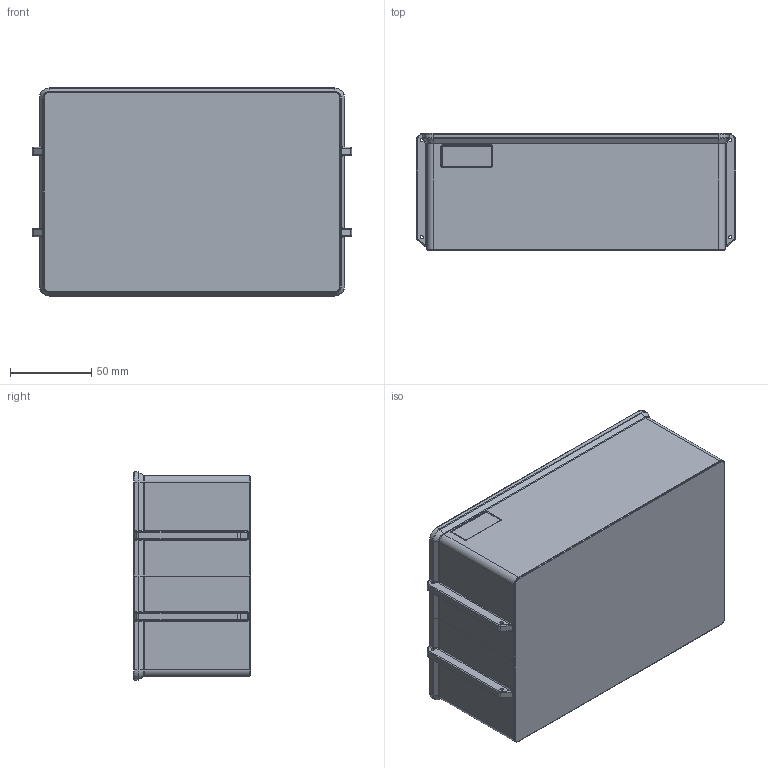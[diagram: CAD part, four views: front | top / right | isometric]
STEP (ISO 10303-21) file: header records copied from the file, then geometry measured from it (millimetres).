
FILE_DESCRIPTION (( 'STEP AP214' ), '1' );
FILE_NAME ('Tiered Storage Box 70.STEP', '2024-06-05T01:27:35', ( '' ), ( '' ), 'SwSTEP 2.0', 'SolidWorks 2022', '' );
FILE_SCHEMA (( 'AUTOMOTIVE_DESIGN' ));
Length unit declared in the file: millimetre
Products named in the file (1): Tiered Storage Box 70
Bounding box: 197 x 72 x 128.4 mm (x, y, z)
Volume: 237584.3 mm3; surface area: 250974 mm2
Topology: 1 solids, 1 shells, 761 faces, 1754 edges, 898 vertices
Faces by surface type: cylinder 338, plane 159, torus 102, bspline 90, sphere 60, cone 12
Entity records: 22591 total; most frequent: CARTESIAN_POINT 6376, DIRECTION 3585, ORIENTED_EDGE 3320, EDGE_CURVE 1660, AXIS2_PLACEMENT_3D 1427, VERTEX_POINT 898, EDGE_LOOP 774, FACE_OUTER_BOUND 761
